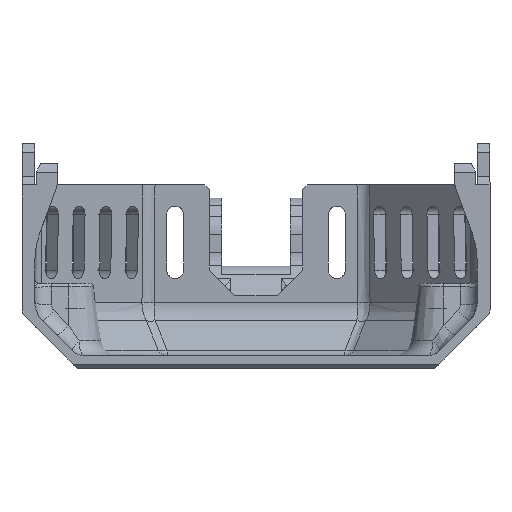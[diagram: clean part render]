
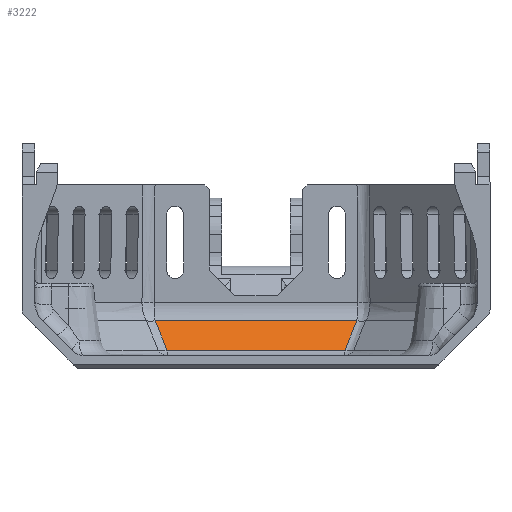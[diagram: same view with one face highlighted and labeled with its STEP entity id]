
A CAD part, front view. The second image highlights one B-rep face of the part: STEP entity #3222.
In plain terms, the highlighted planar face has unit normal (0, -0.723, 0.691).
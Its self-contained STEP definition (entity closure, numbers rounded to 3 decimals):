
#151 = CARTESIAN_POINT ( 'NONE',  ( -11.854, 61.041, -66.4 ) ) ;
#357 = ORIENTED_EDGE ( 'NONE', *, *, #5646, .T. ) ;
#665 = CARTESIAN_POINT ( 'NONE',  ( -10.732, 58.404, -69.163 ) ) ;
#1218 = AXIS2_PLACEMENT_3D ( 'NONE', #11237, #8291, #17373 ) ;
#1653 = CARTESIAN_POINT ( 'NONE',  ( 10.586, 58.061, -69.522 ) ) ;
#1849 = CARTESIAN_POINT ( 'NONE',  ( 10.877, 58.747, -68.804 ) ) ;
#2015 = VERTEX_POINT ( 'NONE', #151 ) ;
#2226 = EDGE_CURVE ( 'NONE', #6095, #2856, #7724, .T. ) ;
#2600 = CARTESIAN_POINT ( 'NONE',  ( -10.44, 57.718, -69.881 ) ) ;
#2856 = VERTEX_POINT ( 'NONE', #10995 ) ;
#3222 = ADVANCED_FACE ( 'NONE', ( #8581 ), #13115, .F. ) ;
#3434 = CARTESIAN_POINT ( 'NONE',  ( -10.44, 57.718, -69.881 ) ) ;
#3539 = CARTESIAN_POINT ( 'NONE',  ( 0., 61.041, -66.4 ) ) ;
#4421 = ORIENTED_EDGE ( 'NONE', *, *, #8790, .T. ) ;
#4480 = LINE ( 'NONE', #19517, #14812 ) ;
#4794 = CARTESIAN_POINT ( 'NONE',  ( -11.853, 61.04, -66.401 ) ) ;
#5187 = CARTESIAN_POINT ( 'NONE',  ( -10.877, 58.747, -68.804 ) ) ;
#5280 = CARTESIAN_POINT ( 'NONE',  ( -11.853, 61.039, -66.402 ) ) ;
#5494 = CARTESIAN_POINT ( 'NONE',  ( 11.854, 61.041, -66.4 ) ) ;
#5646 = EDGE_CURVE ( 'NONE', #2856, #2015, #17468, .T. ) ;
#6095 = VERTEX_POINT ( 'NONE', #14847 ) ;
#6186 = CARTESIAN_POINT ( 'NONE',  ( -11.853, 61.04, -66.402 ) ) ;
#6767 = B_SPLINE_CURVE_WITH_KNOTS ( 'NONE', 3,
 ( #5280, #17156, #13182, #5187, #665, #16149, #2600 ),
 .UNSPECIFIED., .F., .F.,
 ( 4, 3, 4 ),
 ( 0., 0.003, 0.005 ),
 .UNSPECIFIED. ) ;
#7008 = CARTESIAN_POINT ( 'NONE',  ( 11.853, 61.04, -66.402 ) ) ;
#7111 = CARTESIAN_POINT ( 'NONE',  ( 11.853, 61.039, -66.402 ) ) ;
#7423 = EDGE_LOOP ( 'NONE', ( #11247, #14111, #357, #4421, #11896, #8186 ) ) ;
#7710 = CARTESIAN_POINT ( 'NONE',  ( 10.732, 58.404, -69.163 ) ) ;
#7724 = B_SPLINE_CURVE_WITH_KNOTS ( 'NONE', 3,
 ( #7111, #7008, #17160, #5494 ),
 .UNSPECIFIED., .F., .F.,
 ( 4, 4 ),
 ( 0., 0. ),
 .UNSPECIFIED. ) ;
#7886 = CARTESIAN_POINT ( 'NONE',  ( -11.853, 61.039, -66.402 ) ) ;
#7993 = CARTESIAN_POINT ( 'NONE',  ( -11.853, 61.039, -66.402 ) ) ;
#8089 = CARTESIAN_POINT ( 'NONE',  ( 11.202, 59.511, -68.003 ) ) ;
#8186 = ORIENTED_EDGE ( 'NONE', *, *, #17999, .T. ) ;
#8223 = VERTEX_POINT ( 'NONE', #3434 ) ;
#8228 = VERTEX_POINT ( 'NONE', #7993 ) ;
#8291 = DIRECTION ( 'NONE',  ( 0., 0.723, -0.691 ) ) ;
#8581 = FACE_OUTER_BOUND ( 'NONE', #7423, .T. ) ;
#8790 = EDGE_CURVE ( 'NONE', #2015, #8228, #13497, .T. ) ;
#10596 = DIRECTION ( 'NONE',  ( 1., 0., 0. ) ) ;
#10757 = CARTESIAN_POINT ( 'NONE',  ( 11.528, 60.275, -67.203 ) ) ;
#10995 = CARTESIAN_POINT ( 'NONE',  ( 11.854, 61.041, -66.4 ) ) ;
#11237 = CARTESIAN_POINT ( 'NONE',  ( 0., 61.899, -65.501 ) ) ;
#11247 = ORIENTED_EDGE ( 'NONE', *, *, #15600, .T. ) ;
#11339 = DIRECTION ( 'NONE',  ( -1., 0., 0. ) ) ;
#11896 = ORIENTED_EDGE ( 'NONE', *, *, #17964, .T. ) ;
#12231 = CARTESIAN_POINT ( 'NONE',  ( 10.44, 57.718, -69.881 ) ) ;
#12427 = CARTESIAN_POINT ( 'NONE',  ( 11.853, 61.039, -66.402 ) ) ;
#13115 = PLANE ( 'NONE',  #1218 ) ;
#13182 = CARTESIAN_POINT ( 'NONE',  ( -11.202, 59.511, -68.003 ) ) ;
#13497 = B_SPLINE_CURVE_WITH_KNOTS ( 'NONE', 3,
 ( #14984, #4794, #6186, #7886 ),
 .UNSPECIFIED., .F., .F.,
 ( 4, 4 ),
 ( 0., 0. ),
 .UNSPECIFIED. ) ;
#13551 = VERTEX_POINT ( 'NONE', #14816 ) ;
#14111 = ORIENTED_EDGE ( 'NONE', *, *, #2226, .T. ) ;
#14540 = VECTOR ( 'NONE', #11339, 1000. ) ;
#14812 = VECTOR ( 'NONE', #10596, 1000. ) ;
#14816 = CARTESIAN_POINT ( 'NONE',  ( 10.44, 57.718, -69.881 ) ) ;
#14847 = CARTESIAN_POINT ( 'NONE',  ( 11.853, 61.039, -66.402 ) ) ;
#14984 = CARTESIAN_POINT ( 'NONE',  ( -11.854, 61.041, -66.4 ) ) ;
#15141 = B_SPLINE_CURVE_WITH_KNOTS ( 'NONE', 3,
 ( #12231, #1653, #7710, #1849, #8089, #10757, #12427 ),
 .UNSPECIFIED., .F., .F.,
 ( 4, 3, 4 ),
 ( 0., 0.002, 0.005 ),
 .UNSPECIFIED. ) ;
#15600 = EDGE_CURVE ( 'NONE', #13551, #6095, #15141, .T. ) ;
#16149 = CARTESIAN_POINT ( 'NONE',  ( -10.586, 58.061, -69.522 ) ) ;
#17156 = CARTESIAN_POINT ( 'NONE',  ( -11.528, 60.275, -67.203 ) ) ;
#17160 = CARTESIAN_POINT ( 'NONE',  ( 11.853, 61.04, -66.401 ) ) ;
#17373 = DIRECTION ( 'NONE',  ( 1., 0., 0. ) ) ;
#17468 = LINE ( 'NONE', #3539, #14540 ) ;
#17964 = EDGE_CURVE ( 'NONE', #8228, #8223, #6767, .T. ) ;
#17999 = EDGE_CURVE ( 'NONE', #8223, #13551, #4480, .T. ) ;
#19517 = CARTESIAN_POINT ( 'NONE',  ( 10.799, 57.718, -69.881 ) ) ;
